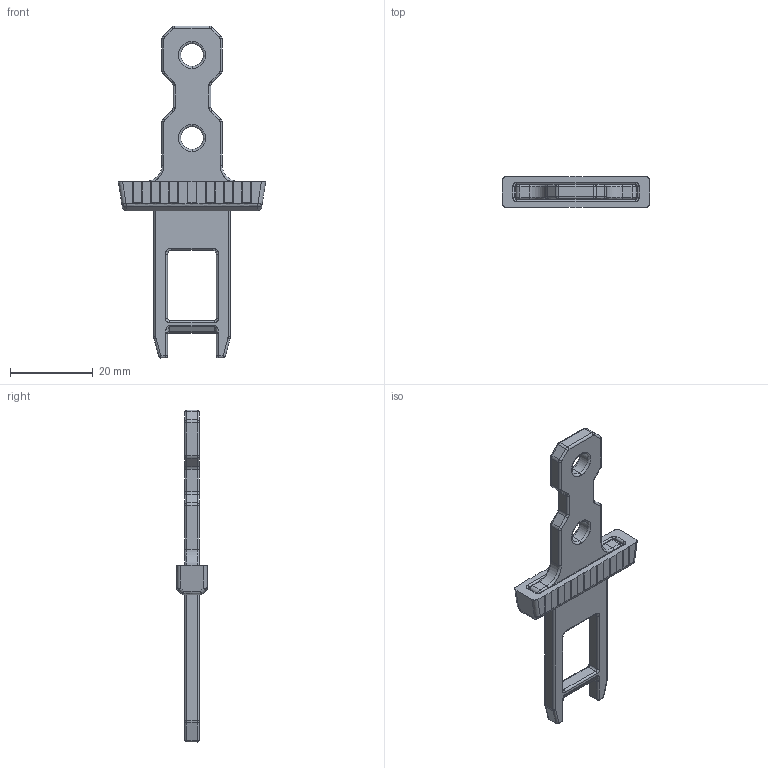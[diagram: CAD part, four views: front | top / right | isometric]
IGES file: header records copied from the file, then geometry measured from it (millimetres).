
Start section: SolidWorks IGES file using analytic representation for surfaces
Global section: file name: Q:\GROUPS\WAU_SBC_ITEC\ENGENHARIA\FERRAMENTARIA\EM ANDAMENTO - DESENHOS CHAVES - LEANDRO\ACIS-MRL\ACIS-MRL.IGS; native system: SolidWorks 2015; preprocessor: SolidWorks 2015; author: silval; date: 151029.082315; units: millimetre
Bounding box: 35.5 x 7.7 x 80 mm (x, y, z)
Surface area: 4014.9 mm2 (no closed solid volume)
Topology: 0 solids, 0 shells, 342 faces, 2348 edges, 2344 vertices
Faces by surface type: revolution 174, bspline 168
